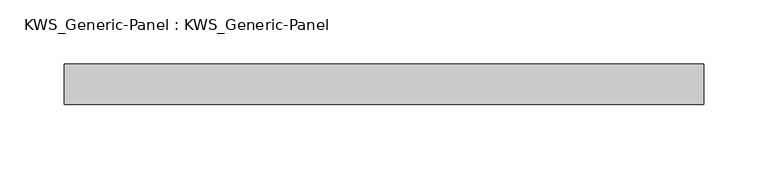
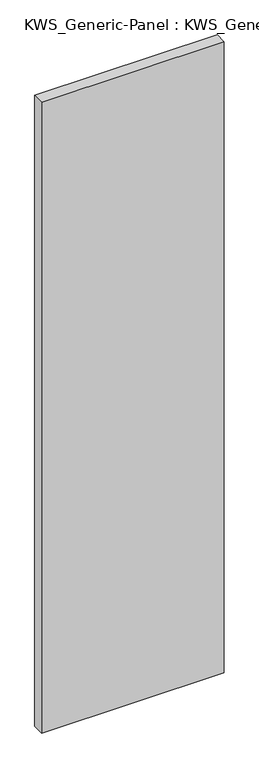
"""IFC4 building model written with IfcOpenShell, lengths in millimetres: plate geometry, KWS_Generic-Panel : KWS_Generic-Panel."""

from ifc_helpers import new_model, si_unit, frame, origin, place, context, project, spatial, polyline, outline, extrude, source, transform, mapped, element, save


def kws_generic_panel_kws_generic_panel_fbc156a4(model_context):
    return source(origin(), model_context, "Body", "SweptSolid", [
        extrude(outline(polyline([(249.2374998, 0.0), (-249.2374998, 0.0), (-249.2374998, 31.75), (249.2374998, 31.75), (249.2374998, 0.0)])), frame((0.0, 0.0, 4.7625), z_axis=(0.0, 0.0, 1.0), x_axis=(1.0, 0.0, 0.0)), (0.0, 0.0, 1.0), 1819.275),
    ])


if __name__ == "__main__":
    model = new_model("IFC4")
    model_context = context("Model", 3, world=origin())
    ifc_project = project(units=[si_unit("LENGTHUNIT", "METRE", prefix="MILLI")], contexts=[model_context])
    site = spatial("IfcSite", under=ifc_project)
    building = spatial("IfcBuilding", under=site)
    placement = place(None, origin())
    kws_generic_panel_kws_generic_panel_shape = kws_generic_panel_kws_generic_panel_fbc156a4(model_context)
    element("IfcPlate", 1, ObjectType="KWS_Generic-Panel : KWS_Generic-Panel", at=placement, inside=building, context=model_context, shape_type="MappedRepresentation", body=[
        mapped(kws_generic_panel_kws_generic_panel_shape, transform((0.0, 0.0, 0.0), x_axis=(1.0, 0.0, 0.0), y_axis=(0.0, 1.0, 0.0), z_axis=(0.0, 0.0, 1.0))),
    ])
    save(model, "model.ifc")
